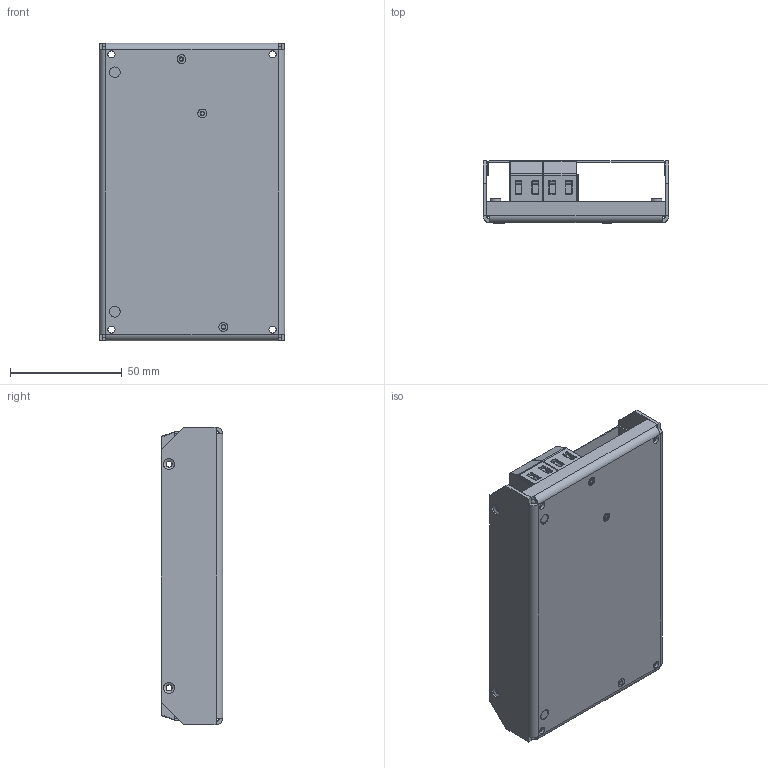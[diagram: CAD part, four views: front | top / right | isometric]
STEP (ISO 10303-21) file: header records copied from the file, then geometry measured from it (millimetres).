
FILE_DESCRIPTION(('STEP AP214'), '1');
FILE_NAME('JETAF15-380_terminal', '', ('UNSPECIFIED'), ('UNSPECIFIED'), 'ASCON STEP Converter 1.3', 'ASCON Math Kernel', '');
FILE_SCHEMA(('AUTOMOTIVE_DESIGN { 1 0 10303 214 3 1 1}'));
Length unit declared in the file: millimetre
Products named in the file (1): JETAF15-380_terminal
Bounding box: 83 x 27.58 x 133 mm (x, y, z)
Volume: 41317.9 mm3; surface area: 84233.6 mm2
Topology: 1 solids, 1 shells, 1445 faces, 3687 edges, 2292 vertices
Faces by surface type: plane 562, cylinder 519, cone 240, torus 84, sphere 32, bspline 8
Full cylindrical faces by diameter (mm): 0.2 x7, 1.5 x8, 1.567 x3, 2 x112, 2.7 x7, 2.835 x2, 3.15 x5, 3.18 x2, 3.2 x4, 3.3 x4, 3.88 x2, 3.96 x3, 4 x8, 4.093 x4, 4.2 x6, 4.22 x2, 4.76 x8, 4.8 x2, 5 x4
Entity records: 73278 total; most frequent: CARTESIAN_POINT 28390, DIRECTION 7012, ORIENTED_EDGE 6416, EDGE_CURVE 3208, AXIS2_PLACEMENT_3D 2756, VERTEX_POINT 2290, EDGE_LOOP 2030, FACE_BOUND 1836
